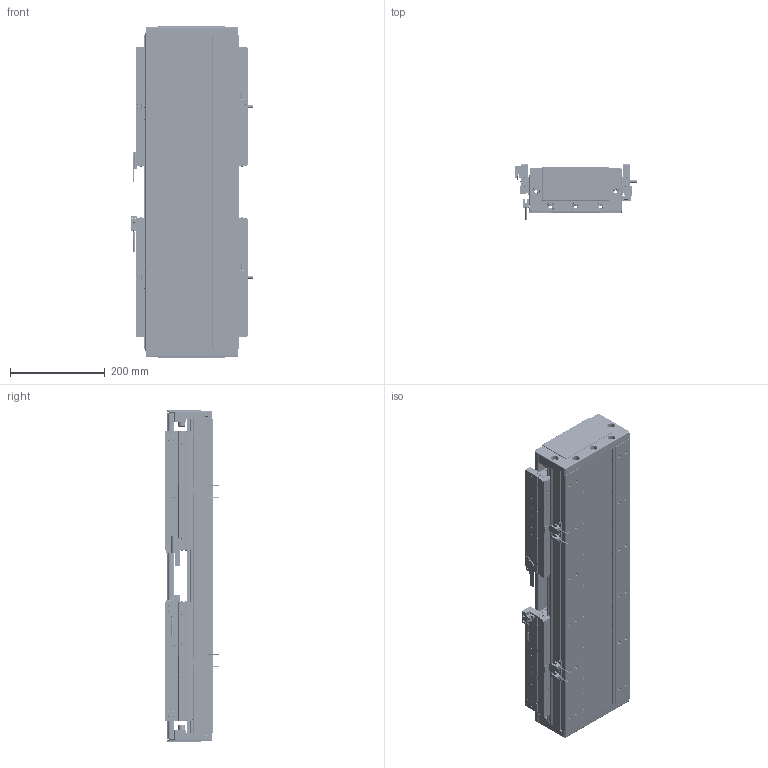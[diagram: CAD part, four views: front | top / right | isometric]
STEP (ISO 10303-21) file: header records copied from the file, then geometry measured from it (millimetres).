
FILE_DESCRIPTION (( 'STEP AP203' ), '1' );
FILE_NAME ('DA-C195-2-C3-T80-C010-0.2 眻盄萇儂.STEP', '2025-08-14T02:20:07', ( '' ), ( '' ), 'SwSTEP 2.0', 'SolidWorks 2019', '' );
FILE_SCHEMA (( 'CONFIG_CONTROL_DESIGN' ));
Length unit declared in the file: millimetre
Products named in the file (16): IU-CU195-L-00 菁釱(L660); MS200 棠掑喜S315-T240; PM-T45ㄗ侂狟ㄘ; CU195-C3賑輸-俋楷; DKW-GYP-ZJ-00 笢潔嫖萇覜茼え; DA-C195-2-C3-T80-C010-0.2 眻盄萇儂; LMT黍杅芛; 葩璃 DA95-GT-T-00; DKW168-HXJ-ZJ-00 笢潔滅袉砎蝶; 66156-0001-003-00 裔啣; DA195-DG-H-00  端盖（压铸镂空版）; IU-CU195-L 菁釱絳寢; DA95-HXJ-00 遣喳砎蝶; DKW-KGZ-ZJ-00 中间光电开关支架; DA165-GYP-00 光电感应片(默认); PM-Y65嫖萇羲壽郪璃
Assembly tree (28 placements, depth 3):
  DA-C195-2-C3-T80-C010-0.2 眻盄萇儂
    IU-CU195-L 菁釱絳寢
      IU-CU195-L-00 菁釱(L660)
      葩璃 DA95-GT-T-00  x4
    LMT黍杅芛  x2
    MS200 棠掑喜S315-T240
    PM-T45ㄗ侂狟ㄘ  x4
    DA165-GYP-00 光电感应片(默认)  x2
    DA195-DG-H-00  端盖（压铸镂空版）  x2
    DA95-HXJ-00 遣喳砎蝶  x4
    PM-Y65嫖萇羲壽郪璃
    66156-0001-003-00 裔啣
    DKW168-HXJ-ZJ-00 笢潔滅袉砎蝶
    DKW-GYP-ZJ-00 笢潔嫖萇覜茼え
    DKW-KGZ-ZJ-00 中间光电开关支架
    CU195-C3賑輸-俋楷  x2
Bounding box: 258.2 x 115.6 x 700 mm (x, y, z)
Volume: 7482791.2 mm3; surface area: 1984795.3 mm2
Topology: 146 solids, 218 shells, 7562 faces, 18856 edges, 11431 vertices
Faces by surface type: cylinder 3000, plane 2778, cone 914, bspline 718, torus 80, sphere 72
Entity records: 144467 total; most frequent: CARTESIAN_POINT 43162, ORIENTED_EDGE 20898, DIRECTION 20256, EDGE_CURVE 10449, AXIS2_PLACEMENT_3D 7359, VERTEX_POINT 6584, VECTOR 5538, LINE 5538
